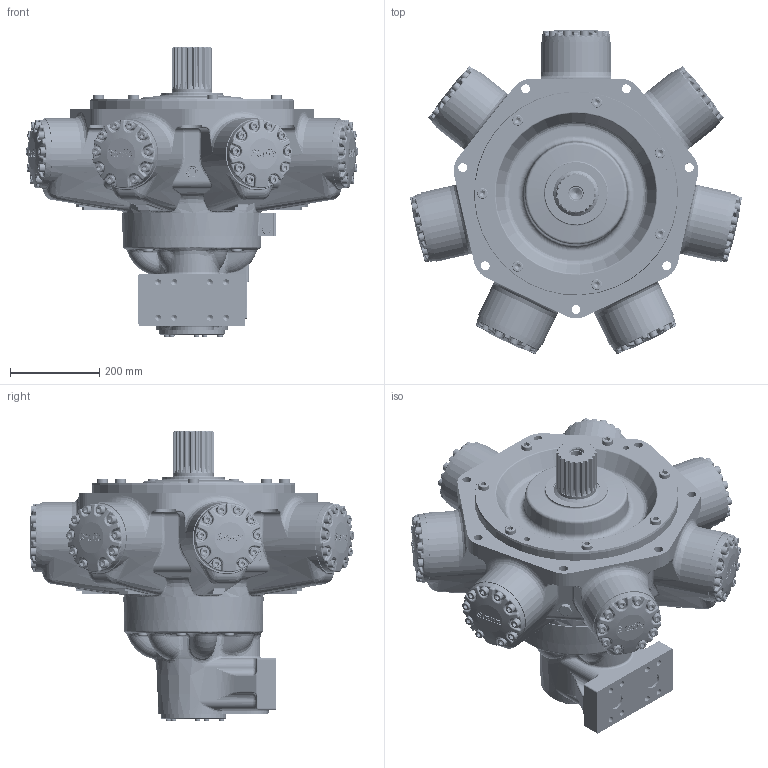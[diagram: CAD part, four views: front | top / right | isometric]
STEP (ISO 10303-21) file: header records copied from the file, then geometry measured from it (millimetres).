
FILE_DESCRIPTION(/* description */ (''),/* implementation_level */ '2;1');
FILE_NAME(/* name */ 'HMC325_Z4_SFM4_CS.stp',/* time_stamp */ '2025-06-12T15:59:20+01:00',/* author */ ('ccallanga'),/* organization */ (''),/* preprocessor_version */ 'ST-DEVELOPER v20',/* originating_system */ 'Autodesk Inventor 2024',/* authorisation */ '');
FILE_SCHEMA (('AUTOMOTIVE_DESIGN { 1 0 10303 214 3 1 1 }'));
Products named in the file (1): 017753 HMC325 Web Assembly_Simplify_1
Bounding box: 744.35 x 728.18 x 648.79 mm (x, y, z)
Volume: 75850002.7 mm3; surface area: 1770934 mm2
Topology: 1 solids, 1 shells, 6311 faces, 15348 edges, 9080 vertices
Faces by surface type: bspline 2360, plane 1700, cylinder 1361, torus 523, cone 205, sphere 162
Full cylindrical faces by diameter (mm): 2.2 x4, 4 x1, 4.134 x4, 5.5 x4, 6.05 x2, 6.5 x3, 7 x3, 9.4 x3, 11.913 x5, 12 x3, 12.7 x5, 13.835 x9, 14.351 x2, 16.51 x1, 19 x1, 19.05 x70, 20 x7, 20.637 x70, 23.825 x14, 25 x1, 25.4 x14, 26.211 x1, 26.92 x2, 28.75 x1, 30.48 x1, 38 x2, 38.1 x3, 90 x1, 101.575 x1, 106.68 x1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
Entity records: 282251 total; most frequent: CARTESIAN_POINT 146199, ORIENTED_EDGE 30116, DIRECTION 21816, EDGE_CURVE 15058, VERTEX_POINT 9080, AXIS2_PLACEMENT_3D 8524, EDGE_LOOP 6656, STYLED_ITEM 6312
